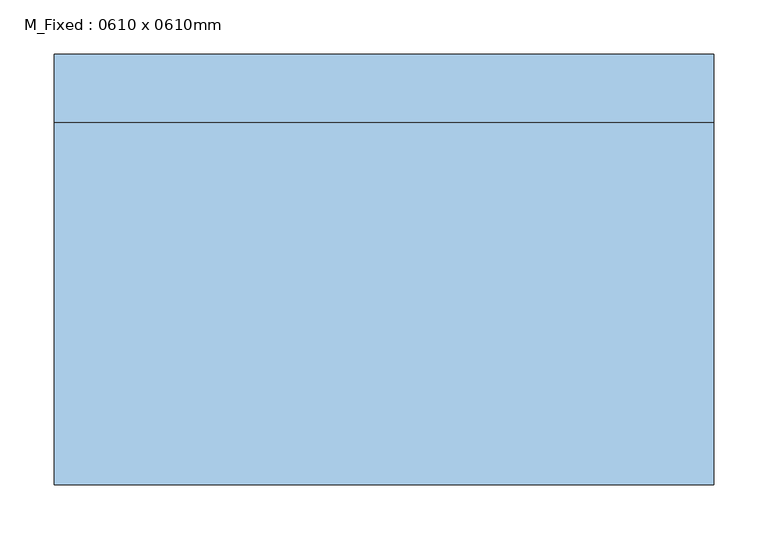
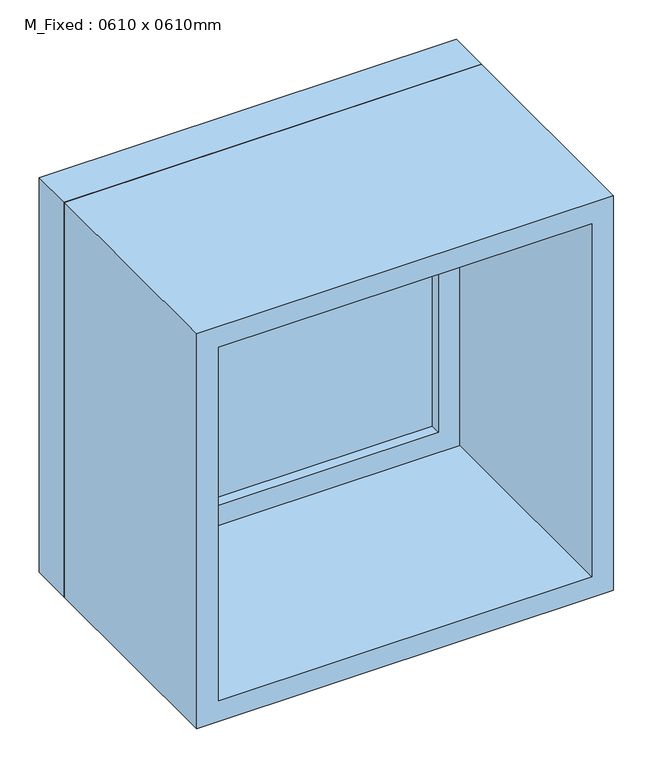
"""IFC4 building model written with IfcOpenShell, lengths in millimetres: window geometry, M_Fixed : 0610 x 0610mm."""

from ifc_helpers import new_model, si_unit, frame, origin, place, context, project, spatial, polyline, outline, extrude, source, transform, mapped, element, save


def m_fixed_0610_x_0610mm_08517cb4(model_context):
    return source(origin(), model_context, "Body", "SweptSolid", [
        extrude(outline(polyline([(-242.0, 177.0), (242.0, 177.0), (242.0, 165.0), (-242.0, 165.0), (-242.0, 177.0)])), frame((0.0, 0.0, 978.0), z_axis=(0.0, 0.0, 1.0), x_axis=(1.0, 0.0, 0.0)), (0.0, 0.0, 1.0), 484.0),
        extrude(outline(polyline([(1506.0, -286.0), (934.0, -286.0), (934.0, 286.0), (1506.0, 286.0), (1506.0, -286.0)]), holes=[polyline([(1462.0, -242.0), (1462.0, 242.0), (978.0, 242.0), (978.0, -242.0), (1462.0, -242.0)])]), frame((0.0, 149.0, 0.0), z_axis=(0.0, 1.0, 0.0), x_axis=(0.0, 0.0, 1.0)), (0.0, 0.0, 1.0), 44.0),
        extrude(outline(polyline([(1525.0, -305.0), (915.0, -305.0), (915.0, 305.0), (1525.0, 305.0), (1525.0, -305.0)]), holes=[polyline([(1506.0, -286.0), (1506.0, 286.0), (934.0, 286.0), (934.0, -286.0), (1506.0, -286.0)])]), frame((0.0, 149.0, 0.0), z_axis=(0.0, 1.0, 0.0), x_axis=(0.0, 0.0, 1.0)), (0.0, 0.0, 1.0), 63.0),
        extrude(outline(polyline([(1525.0, -305.0), (915.0, -305.0), (915.0, 305.0), (1525.0, 305.0), (1525.0, -305.0)]), holes=[polyline([(1493.0, -273.0), (1493.0, 273.0), (947.0, 273.0), (947.0, -273.0), (1493.0, -273.0)])]), frame((0.0, -186.0, 0.0), z_axis=(0.0, 1.0, 0.0), x_axis=(0.0, 0.0, 1.0)), (0.0, 0.0, 1.0), 335.0),
    ])


if __name__ == "__main__":
    model = new_model("IFC4")
    model_context = context("Model", 3, world=origin())
    ifc_project = project(units=[si_unit("LENGTHUNIT", "METRE", prefix="MILLI")], contexts=[model_context])
    site = spatial("IfcSite", under=ifc_project)
    building = spatial("IfcBuilding", under=site)
    placement = place(None, origin())
    m_fixed_0610_x_0610mm_shape = m_fixed_0610_x_0610mm_08517cb4(model_context)
    element("IfcWindow", 1, ObjectType="M_Fixed : 0610 x 0610mm", at=placement, inside=building, context=model_context, shape_type="MappedRepresentation", body=[
        mapped(m_fixed_0610_x_0610mm_shape, transform((0.0, 0.0, 0.0), x_axis=(1.0, 0.0, 0.0), y_axis=(0.0, 1.0, 0.0), z_axis=(0.0, 0.0, 1.0))),
    ])
    save(model, "model.ifc")
